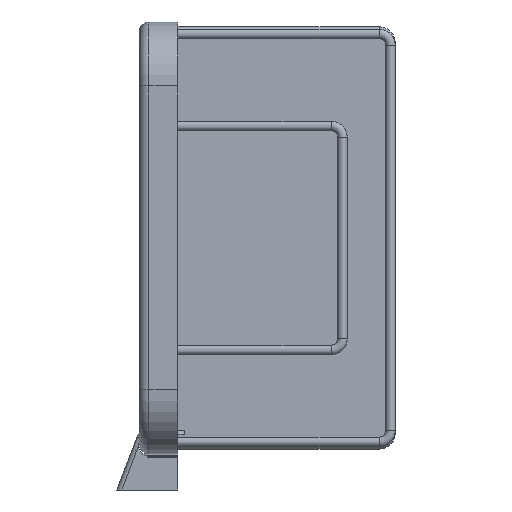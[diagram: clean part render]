
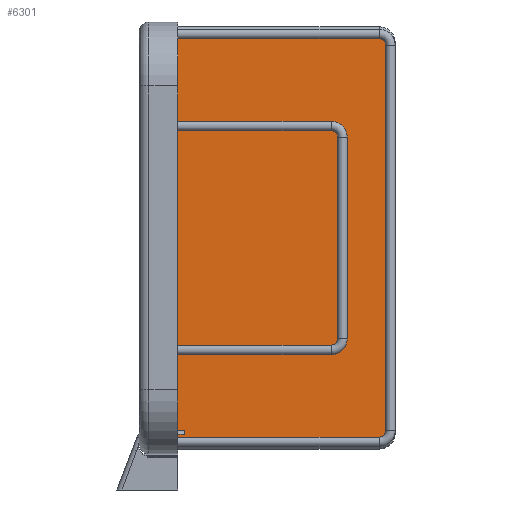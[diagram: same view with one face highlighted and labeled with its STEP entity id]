
A CAD part, left-side view. The second image highlights one B-rep face of the part: STEP entity #6301.
In plain terms, the highlighted planar face has unit normal (-1, 0, 0).
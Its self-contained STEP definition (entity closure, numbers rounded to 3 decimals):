
#6218=DIRECTION('',(0.,0.,1.));
#6219=VECTOR('',#6218,127.496);
#6220=CARTESIAN_POINT('',(105.,-12.,-63.748));
#6221=LINE('',#6220,#6219);
#6222=DIRECTION('',(0.,-1.,0.));
#6223=VECTOR('',#6222,66.5);
#6224=CARTESIAN_POINT('',(105.,-12.,63.748));
#6225=LINE('',#6224,#6223);
#6226=DIRECTION('',(0.,0.,-1.));
#6227=VECTOR('',#6226,127.496);
#6228=CARTESIAN_POINT('',(105.,-78.5,63.748));
#6229=LINE('',#6228,#6227);
#6261=DIRECTION('',(0.,-1.,0.));
#6262=VECTOR('',#6261,66.5);
#6263=CARTESIAN_POINT('',(105.,-12.,-63.748));
#6264=LINE('',#6263,#6262);
#6270=CARTESIAN_POINT('',(105.,-12.,-63.748));
#6272=VERTEX_POINT('',#6270);
#6276=CARTESIAN_POINT('',(105.,-12.,63.748));
#6277=VERTEX_POINT('',#6276);
#6278=CARTESIAN_POINT('',(105.,-78.5,-63.748));
#6280=VERTEX_POINT('',#6278);
#6284=CARTESIAN_POINT('',(105.,-78.5,63.748));
#6285=VERTEX_POINT('',#6284);
#6286=CARTESIAN_POINT('',(105.,-12.,63.748));
#6287=DIRECTION('',(-1.,0.,0.));
#6288=DIRECTION('',(0.,0.,-1.));
#6289=AXIS2_PLACEMENT_3D('',#6286,#6287,#6288);
#6290=PLANE('',#6289);
#6292=ORIENTED_EDGE('',*,*,#6291,.T.);
#6294=ORIENTED_EDGE('',*,*,#6293,.T.);
#6296=ORIENTED_EDGE('',*,*,#6295,.T.);
#6298=ORIENTED_EDGE('',*,*,#6297,.F.);
#6299=EDGE_LOOP('',(#6292,#6294,#6296,#6298));
#6300=FACE_OUTER_BOUND('',#6299,.F.);
#6301=ADVANCED_FACE('',(#6300),#6290,.T.);
#6291=EDGE_CURVE('',#6272,#6277,#6221,.T.);
#6293=EDGE_CURVE('',#6277,#6285,#6225,.T.);
#6295=EDGE_CURVE('',#6285,#6280,#6229,.T.);
#6297=EDGE_CURVE('',#6272,#6280,#6264,.T.);
